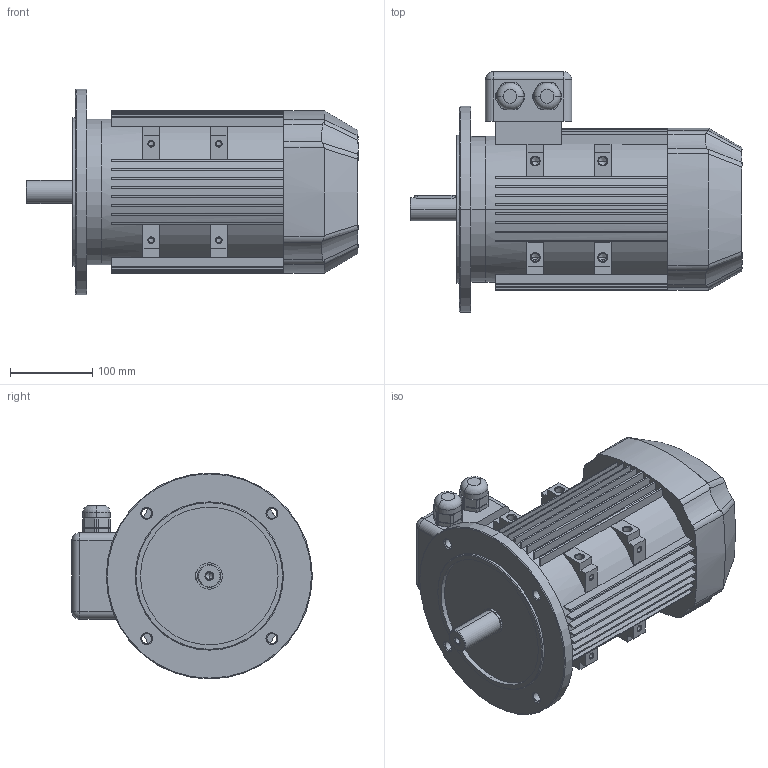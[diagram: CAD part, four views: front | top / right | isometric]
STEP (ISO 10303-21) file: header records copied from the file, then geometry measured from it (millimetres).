
FILE_DESCRIPTION (( 'STEP AP203' ), '1' );
FILE_NAME ('IE2-100L-250-28(B5).STEP', '2023-09-06T10:24:25', ( '' ), ( '' ), 'SwSTEP 2.0', 'SolidWorks 2022', '' );
FILE_SCHEMA (( 'CONFIG_CONTROL_DESIGN' ));
Length unit declared in the file: millimetre
Products named in the file (1): IE2-100L-250-28(B5)
Bounding box: 403 x 292 x 250 mm (x, y, z)
Volume: 10361659.3 mm3; surface area: 509965.1 mm2
Topology: 1 solids, 1 shells, 436 faces, 1176 edges, 746 vertices
Faces by surface type: plane 204, cylinder 149, cone 58, bspline 17, torus 4, sphere 4
Entity records: 14404 total; most frequent: CARTESIAN_POINT 3407, ORIENTED_EDGE 2308, DIRECTION 2295, EDGE_CURVE 1154, AXIS2_PLACEMENT_3D 824, VERTEX_POINT 746, VECTOR 647, LINE 647
